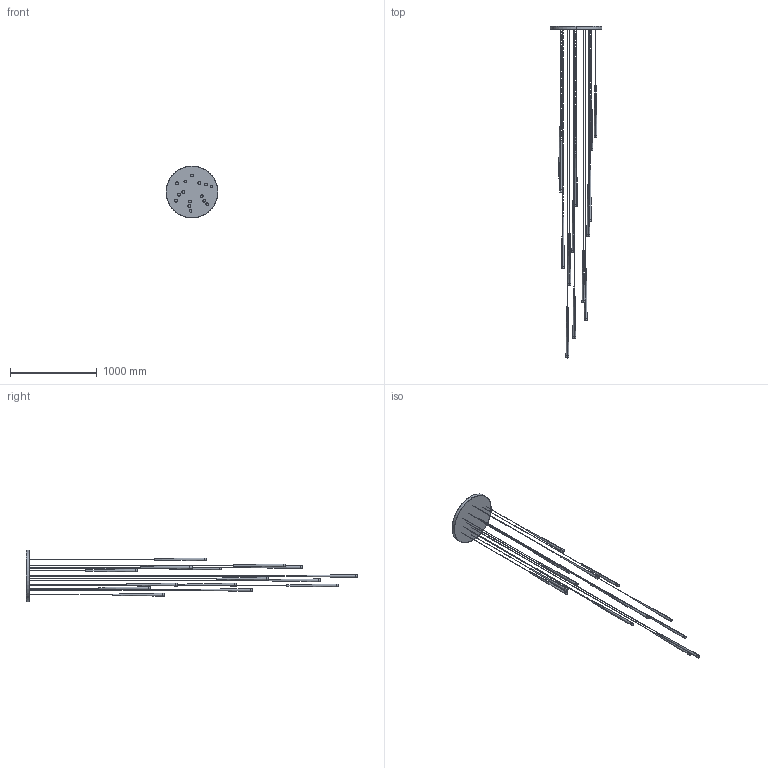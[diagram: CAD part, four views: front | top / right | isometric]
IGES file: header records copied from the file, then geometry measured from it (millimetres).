
Start section: SolidWorks IGES file using analytic representation for surfaces
Global section: file name: F:\燠隴矨\3D\10堎\10渾奻換\Slender Cone Chandelier-15H.IGS; native system: SolidWorks 2022; preprocessor: SolidWorks 2022; author: MyPC; date: 231014.114713; units: millimetre
Bounding box: 600 x 3835 x 600 mm (x, y, z)
Surface area: 1581780.1 mm2 (no closed solid volume)
Topology: 0 solids, 0 shells, 187 faces, 4952 edges, 4952 vertices
Faces by surface type: revolution 94, bspline 93
